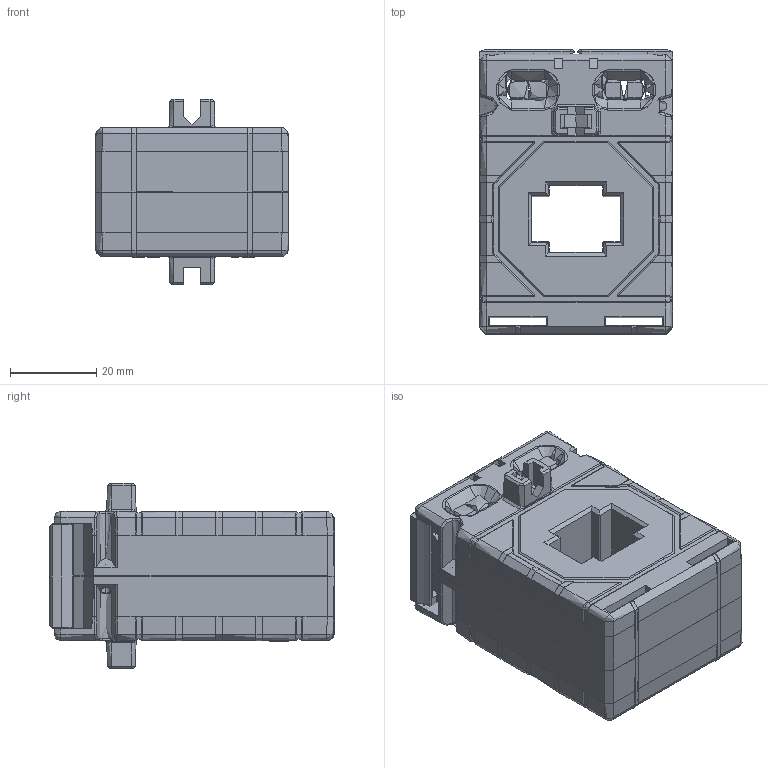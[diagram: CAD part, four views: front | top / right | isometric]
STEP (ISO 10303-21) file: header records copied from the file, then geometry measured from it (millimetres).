
FILE_DESCRIPTION (( 'STEP AP203' ), '1' );
FILE_NAME ('CT20.STEP', '2022-12-02T13:43:48', ( '' ), ( '' ), 'SwSTEP 2.0', 'SolidWorks 2022', '' );
FILE_SCHEMA (( 'CONFIG_CONTROL_DESIGN' ));
Length unit declared in the file: millimetre
Products named in the file (1): CT20
Bounding box: 45 x 66 x 43 mm (x, y, z)
Topology: 0 solids, 22 shells, 1178 faces, 3337 edges, 2110 vertices
Faces by surface type: plane 594, cylinder 349, bspline 186, cone 49
Entity records: 52341 total; most frequent: CARTESIAN_POINT 25401, ORIENTED_EDGE 6089, DIRECTION 4364, EDGE_CURVE 3302, VERTEX_POINT 2105, VECTOR 2016, LINE 2016, EDGE_LOOP 1201
